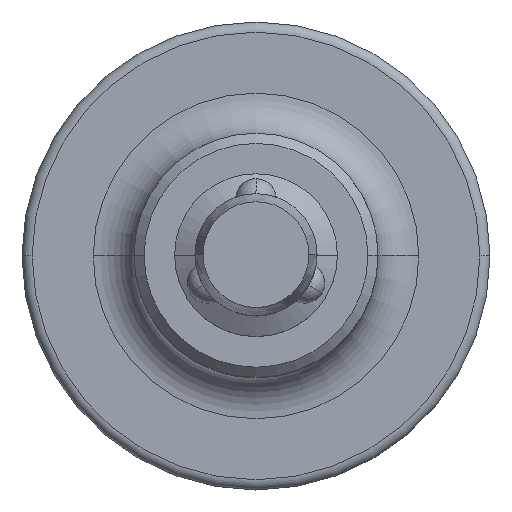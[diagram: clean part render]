
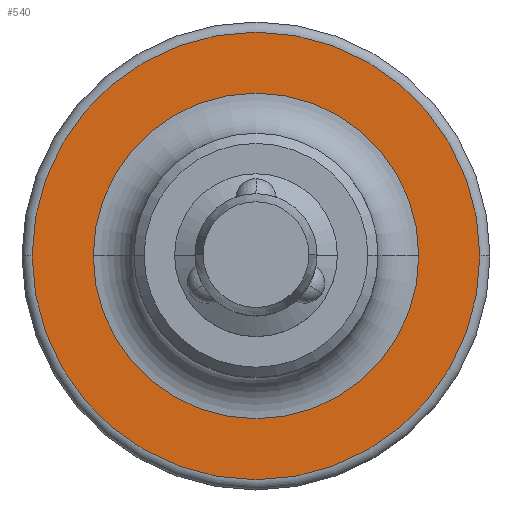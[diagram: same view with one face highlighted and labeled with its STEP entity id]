
A CAD part, top view. The second image highlights one B-rep face of the part: STEP entity #540.
In plain terms, the highlighted planar face has unit normal (0, 0, 1).
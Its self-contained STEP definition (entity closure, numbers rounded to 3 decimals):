
#27 = DIRECTION ( 'NONE',  ( 1., 0., 0. ) ) ;
#83 = VERTEX_POINT ( 'NONE', #1460 ) ;
#99 = VERTEX_POINT ( 'NONE', #1322 ) ;
#139 = CARTESIAN_POINT ( 'NONE',  ( -8., 0., -18. ) ) ;
#214 = FACE_OUTER_BOUND ( 'NONE', #1866, .T. ) ;
#229 = CARTESIAN_POINT ( 'NONE',  ( 0., 0., -18. ) ) ;
#269 = AXIS2_PLACEMENT_3D ( 'NONE', #1398, #1560, #647 ) ;
#275 = PLANE ( 'NONE',  #538 ) ;
#306 = AXIS2_PLACEMENT_3D ( 'NONE', #621, #768, #27 ) ;
#321 = CIRCLE ( 'NONE', #269, 11. ) ;
#358 = DIRECTION ( 'NONE',  ( -1., 0., 0. ) ) ;
#366 = DIRECTION ( 'NONE',  ( 0., 0., 1. ) ) ;
#370 = EDGE_CURVE ( 'NONE', #1427, #83, #321, .T. ) ;
#394 = CARTESIAN_POINT ( 'NONE',  ( 11., 0., -18. ) ) ;
#402 = EDGE_CURVE ( 'NONE', #99, #1148, #731, .T. ) ;
#466 = ORIENTED_EDGE ( 'NONE', *, *, #370, .T. ) ;
#507 = FACE_BOUND ( 'NONE', #1176, .T. ) ;
#518 = DIRECTION ( 'NONE',  ( 1., 0., 0. ) ) ;
#538 = AXIS2_PLACEMENT_3D ( 'NONE', #1739, #1321, #580 ) ;
#540 = ADVANCED_FACE ( 'NONE', ( #214, #507 ), #275, .F. ) ;
#551 = CIRCLE ( 'NONE', #1279, 11. ) ;
#580 = DIRECTION ( 'NONE',  ( -1., 0., 0. ) ) ;
#621 = CARTESIAN_POINT ( 'NONE',  ( 0., 0., -18. ) ) ;
#647 = DIRECTION ( 'NONE',  ( -1., 0., 0. ) ) ;
#731 = CIRCLE ( 'NONE', #948, 8. ) ;
#768 = DIRECTION ( 'NONE',  ( 0., 0., 1. ) ) ;
#794 = ORIENTED_EDGE ( 'NONE', *, *, #402, .F. ) ;
#809 = EDGE_CURVE ( 'NONE', #83, #1427, #551, .T. ) ;
#830 = ORIENTED_EDGE ( 'NONE', *, *, #1208, .F. ) ;
#948 = AXIS2_PLACEMENT_3D ( 'NONE', #1257, #366, #518 ) ;
#1077 = CIRCLE ( 'NONE', #306, 8. ) ;
#1148 = VERTEX_POINT ( 'NONE', #139 ) ;
#1176 = EDGE_LOOP ( 'NONE', ( #794, #830 ) ) ;
#1206 = ORIENTED_EDGE ( 'NONE', *, *, #809, .T. ) ;
#1208 = EDGE_CURVE ( 'NONE', #1148, #99, #1077, .T. ) ;
#1257 = CARTESIAN_POINT ( 'NONE',  ( 0., 0., -18. ) ) ;
#1279 = AXIS2_PLACEMENT_3D ( 'NONE', #229, #1819, #358 ) ;
#1321 = DIRECTION ( 'NONE',  ( 0., 0., -1. ) ) ;
#1322 = CARTESIAN_POINT ( 'NONE',  ( 8., 0., -18. ) ) ;
#1398 = CARTESIAN_POINT ( 'NONE',  ( 0., 0., -18. ) ) ;
#1427 = VERTEX_POINT ( 'NONE', #394 ) ;
#1460 = CARTESIAN_POINT ( 'NONE',  ( -11., 0., -18. ) ) ;
#1560 = DIRECTION ( 'NONE',  ( 0., 0., 1. ) ) ;
#1739 = CARTESIAN_POINT ( 'NONE',  ( 0., 8., -18. ) ) ;
#1819 = DIRECTION ( 'NONE',  ( 0., 0., 1. ) ) ;
#1866 = EDGE_LOOP ( 'NONE', ( #1206, #466 ) ) ;
